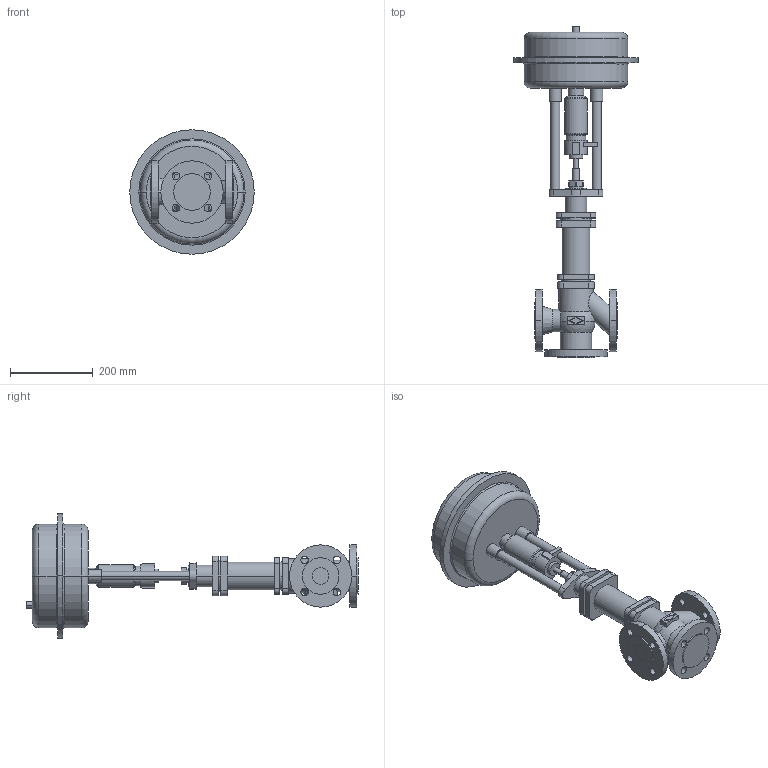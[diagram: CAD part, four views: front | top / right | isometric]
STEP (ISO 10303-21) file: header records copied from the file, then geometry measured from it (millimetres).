
FILE_DESCRIPTION(('OneSpaceDesigner STEP Export'),'2;1');
FILE_NAME('c000000756.stp','2006-09-21T 8:45:21',(''),(''),'OneSpace Designer STEP processor for AP214 (Solid Model)','OneSpace Designer 13.20A 18-Aug-2005 (C) CoCreate Software GmbH','');
FILE_SCHEMA(('AUTOMOTIVE_DESIGN { 1 0 10303 214 1 1 1 1 }'));
Length unit declared in the file: millimetre
Products named in the file (2): 1; 2
Bounding box: 300 x 800.1 x 300 mm (x, y, z)
Volume: 10416619.7 mm3; surface area: 594915.6 mm2
Topology: 2 solids, 2 shells, 243 faces, 594 edges, 389 vertices
Faces by surface type: cylinder 118, plane 97, torus 16, sphere 6, cone 6
Entity records: 6870 total; most frequent: CARTESIAN_POINT 1515, ORIENTED_EDGE 1188, DIRECTION 1000, EDGE_CURVE 594, VERTEX_POINT 389, AXIS2_PLACEMENT_3D 362, EDGE_LOOP 301, VECTOR 276
